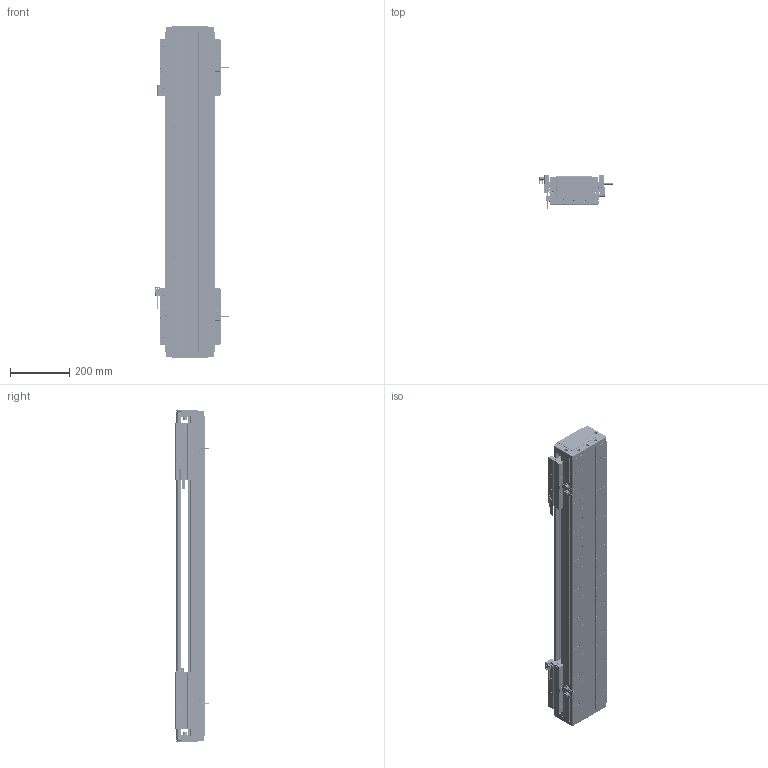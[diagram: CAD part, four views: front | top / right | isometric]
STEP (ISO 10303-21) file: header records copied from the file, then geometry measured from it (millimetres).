
FILE_DESCRIPTION (( 'STEP AP203' ), '1' );
FILE_NAME ('DA-C165-2-C2-T620-C010-0.2 直线电机.STEP', '2023-05-11T08:17:07', ( '微软用户' ), ( '微软中国' ), 'SwSTEP 2.0', 'SolidWorks 2019', '' );
FILE_SCHEMA (( 'CONFIG_CONTROL_DESIGN' ));
Length unit declared in the file: millimetre
Products named in the file (19): 复件 DMA-010-0.2 读数头^DA-C165-C2-T-C010-0.2-N 直线电机; 复件 CKM02-W075-C1C2-TP-3.0 一体电机-C2^DA-C165-C2-T-C010-0.2-N 直线电机; IU-CU165-L-00 菁釱_L1080; 复件 DA165-DG-H-N-00 端盖^DA-C165-C2-T-C010-0.2-N 直线电机; 复件 XD-U-02L 磁栅尺^DA-C165-C2-T-C010-0.2-N 直线电机_T; 复件 DKW-HXJ-JY-00 缓冲橡胶^DA-C165-C2-T-C010-0.2-N 直线电机; 葩璃 PM-T45^DA-C165-C2-T-C010-0.2-N 眻盄萇儂; 复件 DA126-GYP-ZJ-00 中间光电感应片^DA-C165-C2-T-C010-0.2-N 直线电机; 葩璃 DA95-GT-T-00^IU-CU165-L 菁釱絳寢_T; DA-C165-2-C2-T620-C010-0.2 眻盄萇儂; 复件 六角薄螺母 M3^DA-C165-C2-T-C010-0.2-N 直线电机_GB_FASTENER_NUT_STNAB M3-C; 复件 DA95-HXJ-00 缓冲橡胶^DA-C165-C2-T-C010-0.2-N 直线电机; 复件 66338-1000-006-00 光电感应块^DA-C165-C2-T-C010-0.2-N 直线电机; 复件 DA165-T-002-00 盖板^DA-C165-C2-T-C010-0.2-N 直线电机_0840-002-00; 复件 DA165-GYP-00 光电感应片^DA-C165-C2-T-C010-0.2-N 直线电机; IU-CU165-L 菁釱絳寢; 珨极趙賑雄怢啣wf-C2; 葩璃 CKM01-W075-TRL^DA-C165-C2-T-C010-0.2-N 眻盄萇儂; 葩璃 PM-Y45^DA-C165-C2-T-C010-0.2-N 眻盄萇儂
Assembly tree (38 placements, depth 3):
  DA-C165-2-C2-T620-C010-0.2 眻盄萇儂
    IU-CU165-L 菁釱絳寢
      IU-CU165-L-00 菁釱_L1080
      葩璃 DA95-GT-T-00^IU-CU165-L 菁釱絳寢_T  x4
    复件 DA165-DG-H-N-00 端盖^DA-C165-C2-T-C010-0.2-N 直线电机  x2
    复件 DA95-HXJ-00 缓冲橡胶^DA-C165-C2-T-C010-0.2-N 直线电机  x4
    复件 DA165-T-002-00 盖板^DA-C165-C2-T-C010-0.2-N 直线电机_0840-002-00
    复件 XD-U-02L 磁栅尺^DA-C165-C2-T-C010-0.2-N 直线电机_T
    葩璃 PM-T45^DA-C165-C2-T-C010-0.2-N 眻盄萇儂  x4
    葩璃 CKM01-W075-TRL^DA-C165-C2-T-C010-0.2-N 眻盄萇儂
    复件 CKM02-W075-C1C2-TP-3.0 一体电机-C2^DA-C165-C2-T-C010-0.2-N 直线电机  x2
    复件 DMA-010-0.2 读数头^DA-C165-C2-T-C010-0.2-N 直线电机  x2
    复件 DA165-GYP-00 光电感应片^DA-C165-C2-T-C010-0.2-N 直线电机  x2
    复件 66338-1000-006-00 光电感应块^DA-C165-C2-T-C010-0.2-N 直线电机
    葩璃 PM-Y45^DA-C165-C2-T-C010-0.2-N 眻盄萇儂
    复件 DA126-GYP-ZJ-00 中间光电感应片^DA-C165-C2-T-C010-0.2-N 直线电机
    复件 DKW-HXJ-JY-00 缓冲橡胶^DA-C165-C2-T-C010-0.2-N 直线电机  x2
    复件 六角薄螺母 M3^DA-C165-C2-T-C010-0.2-N 直线电机_GB_FASTENER_NUT_STNAB M3-C  x6
    珨极趙賑雄怢啣wf-C2  x2
Bounding box: 247.2 x 111.45 x 1120 mm (x, y, z)
Volume: 9698797.1 mm3; surface area: 2518054 mm2
Topology: 115 solids, 115 shells, 4868 faces, 12985 edges, 8080 vertices
Faces by surface type: cylinder 2326, plane 1766, cone 680, torus 88, sphere 8
Entity records: 98504 total; most frequent: CARTESIAN_POINT 22616, DIRECTION 15531, ORIENTED_EDGE 15216, EDGE_CURVE 7608, AXIS2_PLACEMENT_3D 5788, VERTEX_POINT 4917, LINE 3955, VECTOR 3955
